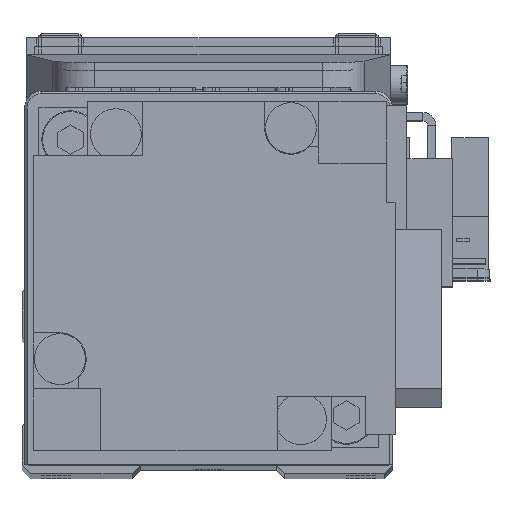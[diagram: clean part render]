
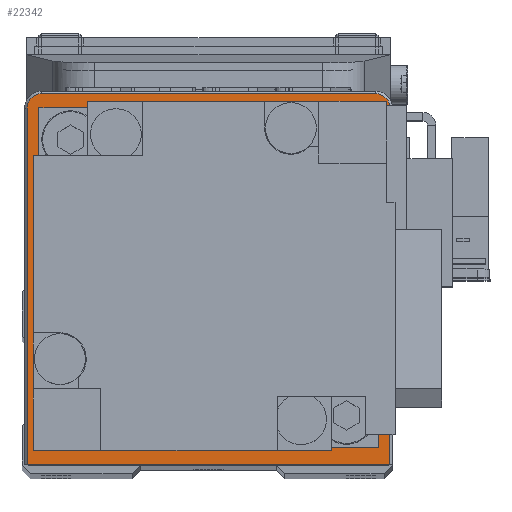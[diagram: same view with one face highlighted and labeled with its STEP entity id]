
A CAD part, top view. The second image highlights one B-rep face of the part: STEP entity #22342.
In plain terms, the highlighted planar face has unit normal (0, 0, 1).
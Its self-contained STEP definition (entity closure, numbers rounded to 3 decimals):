
#370 = FACE_OUTER_BOUND ( 'NONE', #7252, .T. ) ;
#508 = EDGE_CURVE ( 'NONE', #3012, #24280, #11544, .T. ) ;
#654 = DIRECTION ( 'NONE',  ( 0., -1., 0. ) ) ;
#1593 = CARTESIAN_POINT ( 'NONE',  ( -21.4, -22., 26.5 ) ) ;
#1617 = CARTESIAN_POINT ( 'NONE',  ( 19.7, 21.7, 26.5 ) ) ;
#1881 = DIRECTION ( 'NONE',  ( 0., 0., 1. ) ) ;
#2483 = EDGE_CURVE ( 'NONE', #35346, #11147, #15056, .T. ) ;
#2615 = AXIS2_PLACEMENT_3D ( 'NONE', #35072, #9087, #20654 ) ;
#2819 = VERTEX_POINT ( 'NONE', #25823 ) ;
#3012 = VERTEX_POINT ( 'NONE', #35671 ) ;
#4566 = CARTESIAN_POINT ( 'NONE',  ( -19.7, 21.7, 26.5 ) ) ;
#5246 = ORIENTED_EDGE ( 'NONE', *, *, #6371, .F. ) ;
#6361 = CARTESIAN_POINT ( 'NONE',  ( -21.4, 20., 26.5 ) ) ;
#6371 = EDGE_CURVE ( 'NONE', #14427, #2819, #24322, .T. ) ;
#7001 = DIRECTION ( 'NONE',  ( 0., 0., 1. ) ) ;
#7252 = EDGE_LOOP ( 'NONE', ( #16530, #25840, #12358, #30839, #24394, #21138 ) ) ;
#7957 = EDGE_CURVE ( 'NONE', #35488, #33261, #30545, .T. ) ;
#7977 = AXIS2_PLACEMENT_3D ( 'NONE', #7999, #19570, #31147 ) ;
#7999 = CARTESIAN_POINT ( 'NONE',  ( 0., 0., 26.5 ) ) ;
#8392 = CIRCLE ( 'NONE', #29587, 1.7 ) ;
#9087 = DIRECTION ( 'NONE',  ( 0., 0., 1. ) ) ;
#9674 = DIRECTION ( 'NONE',  ( 1., 0., 0. ) ) ;
#10473 = DIRECTION ( 'NONE',  ( 1., 0., 0. ) ) ;
#11147 = VERTEX_POINT ( 'NONE', #1593 ) ;
#11544 = LINE ( 'NONE', #23111, #14197 ) ;
#11925 = FACE_BOUND ( 'NONE', #35147, .T. ) ;
#12358 = ORIENTED_EDGE ( 'NONE', *, *, #35004, .T. ) ;
#13431 = DIRECTION ( 'NONE',  ( 1., 0., 0. ) ) ;
#13944 = EDGE_CURVE ( 'NONE', #2819, #14427, #35973, .T. ) ;
#14197 = VECTOR ( 'NONE', #34675, 1000. ) ;
#14312 = CARTESIAN_POINT ( 'NONE',  ( 21.4, 20., 26.5 ) ) ;
#14427 = VERTEX_POINT ( 'NONE', #31550 ) ;
#15056 = LINE ( 'NONE', #26623, #21828 ) ;
#15664 = AXIS2_PLACEMENT_3D ( 'NONE', #24083, #35649, #9674 ) ;
#16127 = DIRECTION ( 'NONE',  ( -1., 0., 0. ) ) ;
#16530 = ORIENTED_EDGE ( 'NONE', *, *, #21620, .T. ) ;
#18579 = DIRECTION ( 'NONE',  ( 1., 0., 0. ) ) ;
#19570 = DIRECTION ( 'NONE',  ( 0., 0., 1. ) ) ;
#19631 = AXIS2_PLACEMENT_3D ( 'NONE', #27854, #1881, #13431 ) ;
#20654 = DIRECTION ( 'NONE',  ( 1., 0., 0. ) ) ;
#21131 = ORIENTED_EDGE ( 'NONE', *, *, #13944, .F. ) ;
#21138 = ORIENTED_EDGE ( 'NONE', *, *, #2483, .T. ) ;
#21620 = EDGE_CURVE ( 'NONE', #11147, #3012, #24880, .T. ) ;
#21828 = VECTOR ( 'NONE', #654, 1000. ) ;
#22342 = ADVANCED_FACE ( 'NONE', ( #370, #11925 ), #23499, .T. ) ;
#23111 = CARTESIAN_POINT ( 'NONE',  ( 21.4, 20., 26.5 ) ) ;
#23499 = PLANE ( 'NONE',  #2615 ) ;
#24083 = CARTESIAN_POINT ( 'NONE',  ( 19.7, 20., 26.5 ) ) ;
#24280 = VERTEX_POINT ( 'NONE', #14312 ) ;
#24322 = CIRCLE ( 'NONE', #7977, 10. ) ;
#24394 = ORIENTED_EDGE ( 'NONE', *, *, #33218, .T. ) ;
#24880 = LINE ( 'NONE', #36451, #25672 ) ;
#25672 = VECTOR ( 'NONE', #10473, 1000. ) ;
#25823 = CARTESIAN_POINT ( 'NONE',  ( -10., 0., 26.5 ) ) ;
#25840 = ORIENTED_EDGE ( 'NONE', *, *, #508, .T. ) ;
#26623 = CARTESIAN_POINT ( 'NONE',  ( -21.4, -22., 26.5 ) ) ;
#27168 = CIRCLE ( 'NONE', #15664, 1.7 ) ;
#27854 = CARTESIAN_POINT ( 'NONE',  ( 0., 0., 26.5 ) ) ;
#29181 = VECTOR ( 'NONE', #16127, 1000. ) ;
#29587 = AXIS2_PLACEMENT_3D ( 'NONE', #32973, #7001, #18579 ) ;
#30545 = LINE ( 'NONE', #4566, #29181 ) ;
#30839 = ORIENTED_EDGE ( 'NONE', *, *, #7957, .T. ) ;
#31147 = DIRECTION ( 'NONE',  ( 1., 0., 0. ) ) ;
#31550 = CARTESIAN_POINT ( 'NONE',  ( 10., 0., 26.5 ) ) ;
#32973 = CARTESIAN_POINT ( 'NONE',  ( -19.7, 20., 26.5 ) ) ;
#33218 = EDGE_CURVE ( 'NONE', #33261, #35346, #8392, .T. ) ;
#33261 = VERTEX_POINT ( 'NONE', #36207 ) ;
#34675 = DIRECTION ( 'NONE',  ( 0., 1., 0. ) ) ;
#35004 = EDGE_CURVE ( 'NONE', #24280, #35488, #27168, .T. ) ;
#35072 = CARTESIAN_POINT ( 'NONE',  ( 0., 0., 26.5 ) ) ;
#35147 = EDGE_LOOP ( 'NONE', ( #21131, #5246 ) ) ;
#35346 = VERTEX_POINT ( 'NONE', #6361 ) ;
#35488 = VERTEX_POINT ( 'NONE', #1617 ) ;
#35649 = DIRECTION ( 'NONE',  ( 0., 0., 1. ) ) ;
#35671 = CARTESIAN_POINT ( 'NONE',  ( 21.4, -22., 26.5 ) ) ;
#35973 = CIRCLE ( 'NONE', #19631, 10. ) ;
#36207 = CARTESIAN_POINT ( 'NONE',  ( -19.7, 21.7, 26.5 ) ) ;
#36451 = CARTESIAN_POINT ( 'NONE',  ( -21.7, -22., 26.5 ) ) ;
